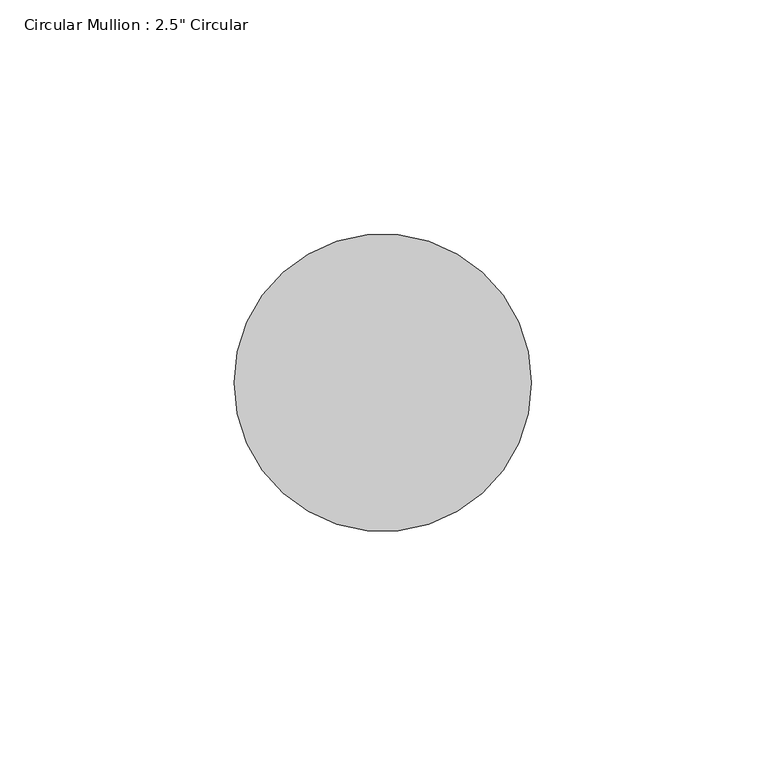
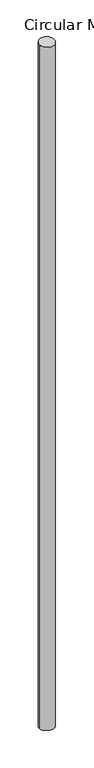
"""IFC4 building model written with IfcOpenShell, lengths in millimetres: member geometry."""

from ifc_helpers import new_model, si_unit, frame, origin, origin_with_axes, place, context, project, spatial, ellipse_curve, source, transform, mapped, element, save
from ifc_brep_helpers import plane_surface, cylinder_surface, advanced_brep


def member_cca4eda8(model_context):
    return source(origin(), model_context, "Body", "AdvancedBrep", [
        advanced_brep(
        [(-31.75, 0.0, 0.1107955), (31.75, 0.0, -0.1107955), (31.75, 0.0, -3048.7898476), (-31.75, 0.0, -3049.2596697)],
        [
            (0, 1, ellipse_curve(frame((0.0, 0.0, 0.0), z_axis=(-0.0034835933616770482, 0.058656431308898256, -0.9982721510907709), x_axis=(-0.05918289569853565, 0.9965162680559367, 0.058759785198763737)), 31.8049542, 31.75)),
            (1, 2),
            (2, 3, ellipse_curve(frame((0.0, 0.0, -3049.0247586), z_axis=(-0.0073804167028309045, 0.07000912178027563, 0.9975190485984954), x_axis=(0.10457972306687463, -0.9920218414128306, 0.07039707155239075)), 31.8289661, 31.75)),
            (3, 0),
            (1, 0, ellipse_curve(frame((0.0, 0.0, 0.0), z_axis=(-0.0034835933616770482, 0.058656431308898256, -0.9982721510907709), x_axis=(-0.05918289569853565, 0.9965162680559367, 0.058759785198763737)), 31.8049542, 31.75)),
            (3, 2, ellipse_curve(frame((0.0, 0.0, -3049.0247586), z_axis=(-0.0073804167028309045, 0.07000912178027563, 0.9975190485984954), x_axis=(0.10457972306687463, -0.9920218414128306, 0.07039707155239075)), 31.8289661, 31.75)),
        ],
        [
            cylinder_surface(origin_with_axes(), 31.75),
            plane_surface(frame((304.2638805, 18.0701691, 0.0), z_axis=(0.0034835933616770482, -0.058656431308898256, 0.9982721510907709), x_axis=(0.05918289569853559, -0.9965162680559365, -0.058759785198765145))),
            plane_surface(frame((303.120284, 31.9551788, -3049.0247586), z_axis=(0.0073804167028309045, -0.07000912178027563, -0.9975190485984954), x_axis=(0.10457972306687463, -0.9920218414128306, 0.07039707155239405))),
        ],
        [
            (0, [[1, 2, 3, 4]]),
            (0, [[5, -4, 6, -2]]),
            (1, [[-1, -5]]),
            (2, [[-6, -3]]),
        ],
    ),
    ])


if __name__ == "__main__":
    model = new_model("IFC4")
    model_context = context("Model", 3, world=origin())
    ifc_project = project(units=[si_unit("LENGTHUNIT", "METRE", prefix="MILLI")], contexts=[model_context])
    site = spatial("IfcSite", under=ifc_project)
    building = spatial("IfcBuilding", under=site)
    placement = place(None, origin())
    member_shape = member_cca4eda8(model_context)
    element("IfcMember", 1, ObjectType="Circular Mullion : 2.5\" Circular", at=placement, inside=building, context=model_context, shape_type="MappedRepresentation", body=[
        mapped(member_shape, transform((0.0, 0.0, 0.0), x_axis=(1.0, 0.0, 0.0), y_axis=(0.0, 1.0, 0.0), z_axis=(0.0, 0.0, 1.0))),
    ])
    save(model, "model.ifc")
